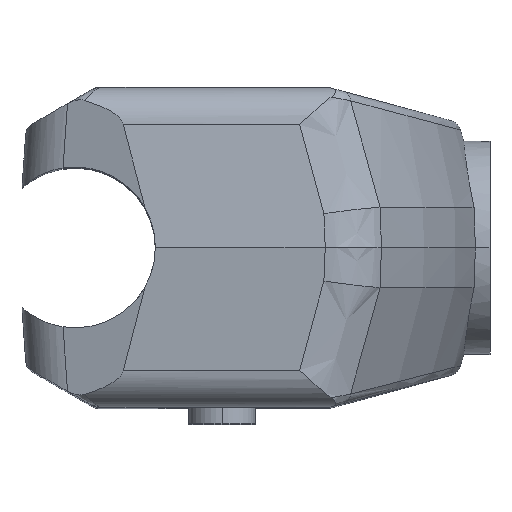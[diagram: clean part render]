
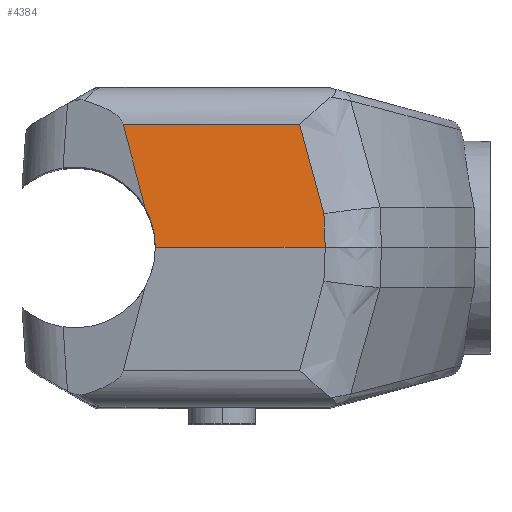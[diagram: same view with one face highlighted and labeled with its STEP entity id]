
A CAD part, top view. The second image highlights one B-rep face of the part: STEP entity #4384.
In plain terms, the highlighted planar face has unit normal (0, 0.07, 0.998).
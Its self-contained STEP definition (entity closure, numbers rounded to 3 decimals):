
#94 = VECTOR ( 'NONE', #7707, 1000. ) ;
#188 = LINE ( 'NONE', #6831, #3324 ) ;
#407 = CARTESIAN_POINT ( 'NONE',  ( 20.332, 0.009, 28.999 ) ) ;
#413 = EDGE_CURVE ( 'NONE', #961, #7796, #7310, .T. ) ;
#495 = EDGE_CURVE ( 'NONE', #2383, #5284, #2647, .T. ) ;
#578 = ORIENTED_EDGE ( 'NONE', *, *, #1520, .T. ) ;
#637 = ORIENTED_EDGE ( 'NONE', *, *, #2951, .T. ) ;
#961 = VERTEX_POINT ( 'NONE', #5787 ) ;
#973 = EDGE_CURVE ( 'NONE', #7149, #7695, #2619, .T. ) ;
#1104 = DIRECTION ( 'NONE',  ( 0., -0.998, 0.07 ) ) ;
#1152 = CARTESIAN_POINT ( 'NONE',  ( 20.332, 0., 29. ) ) ;
#1272 =( BOUNDED_CURVE ( )  B_SPLINE_CURVE ( 3, ( #2208, #7079, #407, #7637 ),
 .UNSPECIFIED., .F., .F. ) 
 B_SPLINE_CURVE_WITH_KNOTS ( ( 4, 4 ),
 ( 4.712, 4.717 ),
 .UNSPECIFIED. ) 
 CURVE ( )  GEOMETRIC_REPRESENTATION_ITEM ( )  RATIONAL_B_SPLINE_CURVE ( ( 1., 1., 1., 1. ) ) 
 REPRESENTATION_ITEM ( '' )  );
#1489 = CARTESIAN_POINT ( 'NONE',  ( 20.332, 0.028, 28.998 ) ) ;
#1520 = EDGE_CURVE ( 'NONE', #4910, #7149, #2535, .T. ) ;
#1731 = LINE ( 'NONE', #7786, #94 ) ;
#1782 = VECTOR ( 'NONE', #2504, 1000. ) ;
#1974 = DIRECTION ( 'NONE',  ( -0.038, 0.997, -0.07 ) ) ;
#2134 = CARTESIAN_POINT ( 'NONE',  ( 32.353, 4.805, 28.664 ) ) ;
#2208 = CARTESIAN_POINT ( 'NONE',  ( 20.332, 0.028, 28.998 ) ) ;
#2383 = VERTEX_POINT ( 'NONE', #2983 ) ;
#2441 = ORIENTED_EDGE ( 'NONE', *, *, #495, .T. ) ;
#2504 = DIRECTION ( 'NONE',  ( -1., 0., 0. ) ) ;
#2535 = B_SPLINE_CURVE_WITH_KNOTS ( 'NONE', 3,
 ( #5145, #2134, #3976, #3372 ),
 .UNSPECIFIED., .F., .F.,
 ( 4, 4 ),
 ( 0., 1. ),
 .UNSPECIFIED. ) ;
#2619 = LINE ( 'NONE', #3447, #3652 ) ;
#2647 =( BOUNDED_CURVE ( )  B_SPLINE_CURVE ( 3, ( #5778, #3281, #4524, #1489 ),
 .UNSPECIFIED., .F., .F. ) 
 B_SPLINE_CURVE_WITH_KNOTS ( ( 4, 4 ),
 ( 4.197, 4.712 ),
 .UNSPECIFIED. ) 
 CURVE ( )  GEOMETRIC_REPRESENTATION_ITEM ( )  RATIONAL_B_SPLINE_CURVE ( ( 1., 0.978, 0.978, 1. ) ) 
 REPRESENTATION_ITEM ( '' )  );
#2951 = EDGE_CURVE ( 'NONE', #5284, #7796, #1272, .T. ) ;
#2983 = CARTESIAN_POINT ( 'NONE',  ( 19.553, 2.984, 28.791 ) ) ;
#3168 = ORIENTED_EDGE ( 'NONE', *, *, #413, .F. ) ;
#3249 = ORIENTED_EDGE ( 'NONE', *, *, #973, .T. ) ;
#3281 = CARTESIAN_POINT ( 'NONE',  ( 20.066, 2.077, 28.855 ) ) ;
#3324 = VECTOR ( 'NONE', #1974, 1000. ) ;
#3372 = CARTESIAN_POINT ( 'NONE',  ( 31.148, 9.209, 28.356 ) ) ;
#3447 = CARTESIAN_POINT ( 'NONE',  ( 45., 9.209, 28.356 ) ) ;
#3602 = CARTESIAN_POINT ( 'NONE',  ( 45., 0., 29. ) ) ;
#3652 = VECTOR ( 'NONE', #4591, 1000. ) ;
#3828 = FACE_OUTER_BOUND ( 'NONE', #6158, .T. ) ;
#3976 = CARTESIAN_POINT ( 'NONE',  ( 31.744, 7.034, 28.508 ) ) ;
#4117 = CARTESIAN_POINT ( 'NONE',  ( 17.928, 9.209, 28.356 ) ) ;
#4384 = ADVANCED_FACE ( 'NONE', ( #3828 ), #7273, .T. ) ;
#4524 = CARTESIAN_POINT ( 'NONE',  ( 20.332, 1.07, 28.925 ) ) ;
#4591 = DIRECTION ( 'NONE',  ( -1., 0., 0. ) ) ;
#4863 = DIRECTION ( 'NONE',  ( 0., 0.07, 0.998 ) ) ;
#4910 = VERTEX_POINT ( 'NONE', #5626 ) ;
#5145 = CARTESIAN_POINT ( 'NONE',  ( 32.975, 2.52, 28.824 ) ) ;
#5192 = ORIENTED_EDGE ( 'NONE', *, *, #6855, .T. ) ;
#5206 = AXIS2_PLACEMENT_3D ( 'NONE', #3602, #4863, #1104 ) ;
#5284 = VERTEX_POINT ( 'NONE', #7166 ) ;
#5626 = CARTESIAN_POINT ( 'NONE',  ( 32.975, 2.52, 28.824 ) ) ;
#5709 = ORIENTED_EDGE ( 'NONE', *, *, #5943, .T. ) ;
#5778 = CARTESIAN_POINT ( 'NONE',  ( 19.553, 2.984, 28.791 ) ) ;
#5787 = CARTESIAN_POINT ( 'NONE',  ( 33.072, 0., 29. ) ) ;
#5943 = EDGE_CURVE ( 'NONE', #7695, #2383, #1731, .T. ) ;
#6139 = CARTESIAN_POINT ( 'NONE',  ( 0., 0., 29. ) ) ;
#6158 = EDGE_LOOP ( 'NONE', ( #5709, #2441, #637, #3168, #5192, #578, #3249 ) ) ;
#6831 = CARTESIAN_POINT ( 'NONE',  ( 33.072, 0., 29. ) ) ;
#6855 = EDGE_CURVE ( 'NONE', #961, #4910, #188, .T. ) ;
#7079 = CARTESIAN_POINT ( 'NONE',  ( 20.332, 0.019, 28.999 ) ) ;
#7149 = VERTEX_POINT ( 'NONE', #7862 ) ;
#7166 = CARTESIAN_POINT ( 'NONE',  ( 20.332, 0.028, 28.998 ) ) ;
#7273 = PLANE ( 'NONE',  #5206 ) ;
#7310 = LINE ( 'NONE', #6139, #1782 ) ;
#7637 = CARTESIAN_POINT ( 'NONE',  ( 20.332, 0., 29. ) ) ;
#7695 = VERTEX_POINT ( 'NONE', #4117 ) ;
#7707 = DIRECTION ( 'NONE',  ( 0.252, -0.965, 0.068 ) ) ;
#7786 = CARTESIAN_POINT ( 'NONE',  ( 17.928, 9.209, 28.356 ) ) ;
#7796 = VERTEX_POINT ( 'NONE', #1152 ) ;
#7862 = CARTESIAN_POINT ( 'NONE',  ( 31.148, 9.209, 28.356 ) ) ;
